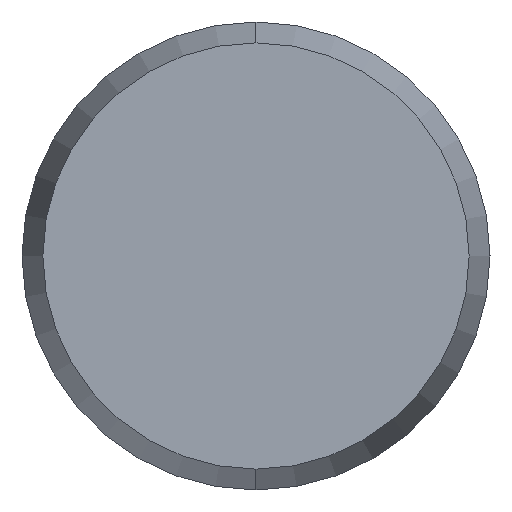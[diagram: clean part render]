
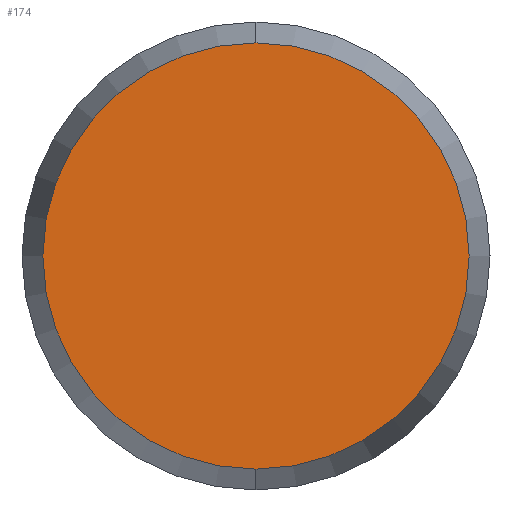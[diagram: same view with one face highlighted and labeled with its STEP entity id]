
A CAD part, left-side view. The second image highlights one B-rep face of the part: STEP entity #174.
In plain terms, the highlighted planar face has unit normal (-1, 0, 0).
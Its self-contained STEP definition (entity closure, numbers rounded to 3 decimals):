
#109 = CARTESIAN_POINT ( 'NONE',  ( -12., 0., 2.732 ) ) ;
#112 = DIRECTION ( 'NONE',  ( 0., 0., -1. ) ) ;
#113 = DIRECTION ( 'NONE',  ( 1., 0., 0. ) ) ;
#114 = CARTESIAN_POINT ( 'NONE',  ( -12., 0., 0. ) ) ;
#115 = AXIS2_PLACEMENT_3D ( 'NONE', #114, #113, #112 ) ;
#116 = CIRCLE ( 'NONE', #115, 2.732 ) ;
#127 = CARTESIAN_POINT ( 'NONE',  ( -12., 0., -2.732 ) ) ;
#148 = ORIENTED_EDGE ( 'NONE', *, *, #186, .F. ) ;
#149 = ORIENTED_EDGE ( 'NONE', *, *, #169, .F. ) ;
#169 = EDGE_CURVE ( 'NONE', #177, #181, #265, .T. ) ;
#171 = EDGE_LOOP ( 'NONE', ( #148, #149 ) ) ;
#174 = ADVANCED_FACE ( 'NONE', ( #266 ), #268, .F. ) ;
#177 = VERTEX_POINT ( 'NONE', #127 ) ;
#181 = VERTEX_POINT ( 'NONE', #109 ) ;
#186 = EDGE_CURVE ( 'NONE', #181, #177, #116, .T. ) ;
#245 = DIRECTION ( 'NONE',  ( 0., 0., -1. ) ) ;
#246 = DIRECTION ( 'NONE',  ( 1., 0., 0. ) ) ;
#247 = CARTESIAN_POINT ( 'NONE',  ( -12., 0., 0. ) ) ;
#248 = AXIS2_PLACEMENT_3D ( 'NONE', #247, #246, #245 ) ;
#261 = DIRECTION ( 'NONE',  ( 0., 0., -1. ) ) ;
#262 = DIRECTION ( 'NONE',  ( 1., 0., 0. ) ) ;
#263 = CARTESIAN_POINT ( 'NONE',  ( -12., 0., 0. ) ) ;
#264 = AXIS2_PLACEMENT_3D ( 'NONE', #263, #262, #261 ) ;
#265 = CIRCLE ( 'NONE', #264, 2.732 ) ;
#266 = FACE_OUTER_BOUND ( 'NONE', #171, .T. ) ;
#268 = PLANE ( 'NONE',  #248 ) ;
